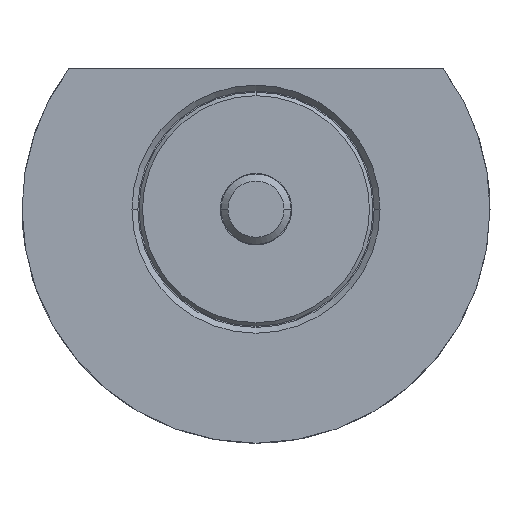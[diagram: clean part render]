
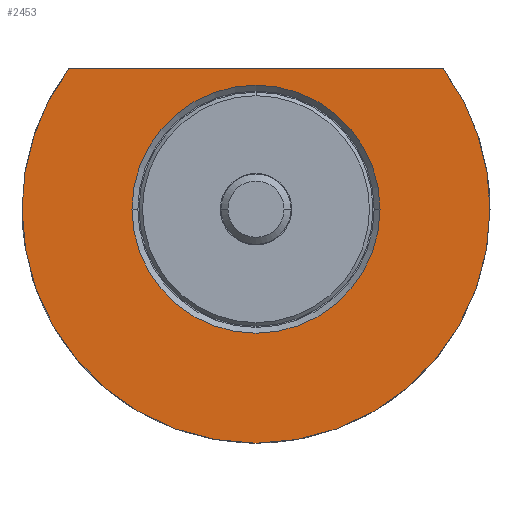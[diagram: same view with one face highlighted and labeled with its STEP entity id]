
A CAD part, front view. The second image highlights one B-rep face of the part: STEP entity #2453.
In plain terms, the highlighted planar face has unit normal (0, -1, 0).
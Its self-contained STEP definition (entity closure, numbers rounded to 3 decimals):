
#5 = VERTEX_POINT ( 'NONE', #816 ) ;
#52 = CIRCLE ( 'NONE', #1948, 20. ) ;
#57 = CIRCLE ( 'NONE', #272, 10.6 ) ;
#90 = EDGE_CURVE ( 'NONE', #2494, #1517, #852, .T. ) ;
#105 = DIRECTION ( 'NONE',  ( 1., 0., 0. ) ) ;
#135 = DIRECTION ( 'NONE',  ( -1., 0., 0. ) ) ;
#171 = DIRECTION ( 'NONE',  ( -1., 0., 0. ) ) ;
#192 = VECTOR ( 'NONE', #135, 1000. ) ;
#245 = FACE_OUTER_BOUND ( 'NONE', #1957, .T. ) ;
#246 = CARTESIAN_POINT ( 'NONE',  ( 0., -10., 0. ) ) ;
#272 = AXIS2_PLACEMENT_3D ( 'NONE', #1383, #2214, #368 ) ;
#329 = ORIENTED_EDGE ( 'NONE', *, *, #90, .F. ) ;
#338 = CARTESIAN_POINT ( 'NONE',  ( 16.001, -10., 11.999 ) ) ;
#368 = DIRECTION ( 'NONE',  ( -1., 0., 0. ) ) ;
#408 = VERTEX_POINT ( 'NONE', #338 ) ;
#413 = CARTESIAN_POINT ( 'NONE',  ( 10.6, -10., 0. ) ) ;
#420 = DIRECTION ( 'NONE',  ( 0., 1., 0. ) ) ;
#421 = ORIENTED_EDGE ( 'NONE', *, *, #2659, .F. ) ;
#459 = EDGE_LOOP ( 'NONE', ( #2061, #2459 ) ) ;
#462 = CARTESIAN_POINT ( 'NONE',  ( 20., -10., 0. ) ) ;
#527 = CARTESIAN_POINT ( 'NONE',  ( 0., -10., 0. ) ) ;
#542 = DIRECTION ( 'NONE',  ( 0., 1., 0. ) ) ;
#553 = CARTESIAN_POINT ( 'NONE',  ( 0., -10., 0. ) ) ;
#687 = AXIS2_PLACEMENT_3D ( 'NONE', #1434, #420, #1025 ) ;
#780 = DIRECTION ( 'NONE',  ( -1., 0., 0. ) ) ;
#815 = VERTEX_POINT ( 'NONE', #1112 ) ;
#816 = CARTESIAN_POINT ( 'NONE',  ( -16.001, -10., 11.999 ) ) ;
#824 = CIRCLE ( 'NONE', #2639, 10.6 ) ;
#852 = CIRCLE ( 'NONE', #687, 20. ) ;
#922 = VERTEX_POINT ( 'NONE', #413 ) ;
#1025 = DIRECTION ( 'NONE',  ( -1., 0., 0. ) ) ;
#1112 = CARTESIAN_POINT ( 'NONE',  ( -10.6, -10., 0. ) ) ;
#1350 = EDGE_CURVE ( 'NONE', #408, #5, #2195, .T. ) ;
#1383 = CARTESIAN_POINT ( 'NONE',  ( 0., -10., 0. ) ) ;
#1434 = CARTESIAN_POINT ( 'NONE',  ( 0., -10., 0. ) ) ;
#1499 = EDGE_CURVE ( 'NONE', #922, #815, #824, .T. ) ;
#1517 = VERTEX_POINT ( 'NONE', #2353 ) ;
#1519 = CARTESIAN_POINT ( 'NONE',  ( -10.6, -10., 0. ) ) ;
#1561 = DIRECTION ( 'NONE',  ( 0., 1., 0. ) ) ;
#1564 = ORIENTED_EDGE ( 'NONE', *, *, #2617, .F. ) ;
#1621 = EDGE_CURVE ( 'NONE', #815, #922, #57, .T. ) ;
#1707 = PLANE ( 'NONE',  #2248 ) ;
#1903 = DIRECTION ( 'NONE',  ( 0., 1., 0. ) ) ;
#1948 = AXIS2_PLACEMENT_3D ( 'NONE', #527, #542, #780 ) ;
#1957 = EDGE_LOOP ( 'NONE', ( #421, #2402, #1564, #329 ) ) ;
#2061 = ORIENTED_EDGE ( 'NONE', *, *, #1499, .T. ) ;
#2114 = DIRECTION ( 'NONE',  ( 0., -1., 0. ) ) ;
#2145 = DIRECTION ( 'NONE',  ( -1., 0., 0. ) ) ;
#2195 = LINE ( 'NONE', #2358, #192 ) ;
#2214 = DIRECTION ( 'NONE',  ( 0., 1., 0. ) ) ;
#2248 = AXIS2_PLACEMENT_3D ( 'NONE', #1519, #2114, #105 ) ;
#2319 = FACE_BOUND ( 'NONE', #459, .T. ) ;
#2353 = CARTESIAN_POINT ( 'NONE',  ( -20., -10., 0. ) ) ;
#2358 = CARTESIAN_POINT ( 'NONE',  ( -10.6, -10., 11.999 ) ) ;
#2378 = AXIS2_PLACEMENT_3D ( 'NONE', #553, #1561, #171 ) ;
#2402 = ORIENTED_EDGE ( 'NONE', *, *, #1350, .T. ) ;
#2453 = ADVANCED_FACE ( 'NONE', ( #2319, #245 ), #1707, .T. ) ;
#2459 = ORIENTED_EDGE ( 'NONE', *, *, #1621, .T. ) ;
#2494 = VERTEX_POINT ( 'NONE', #462 ) ;
#2593 = CIRCLE ( 'NONE', #2378, 20. ) ;
#2617 = EDGE_CURVE ( 'NONE', #1517, #5, #2593, .T. ) ;
#2639 = AXIS2_PLACEMENT_3D ( 'NONE', #246, #1903, #2145 ) ;
#2659 = EDGE_CURVE ( 'NONE', #408, #2494, #52, .T. ) ;
